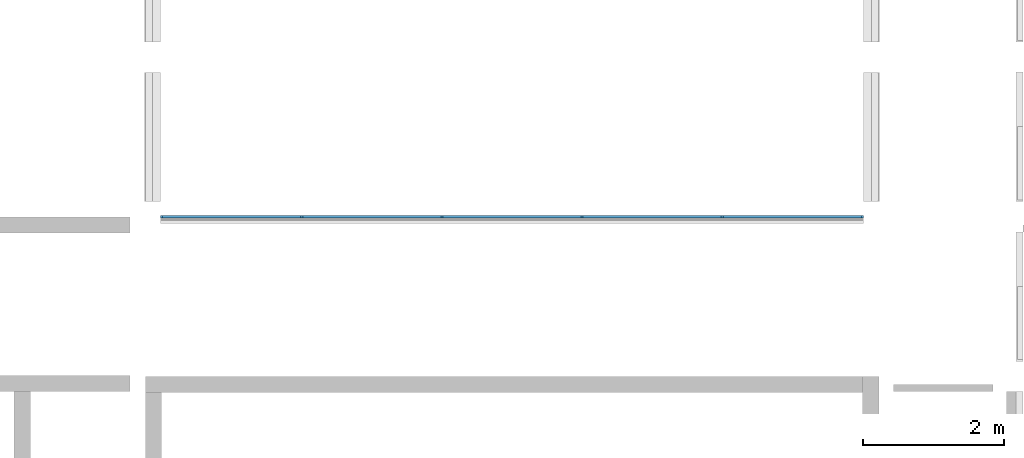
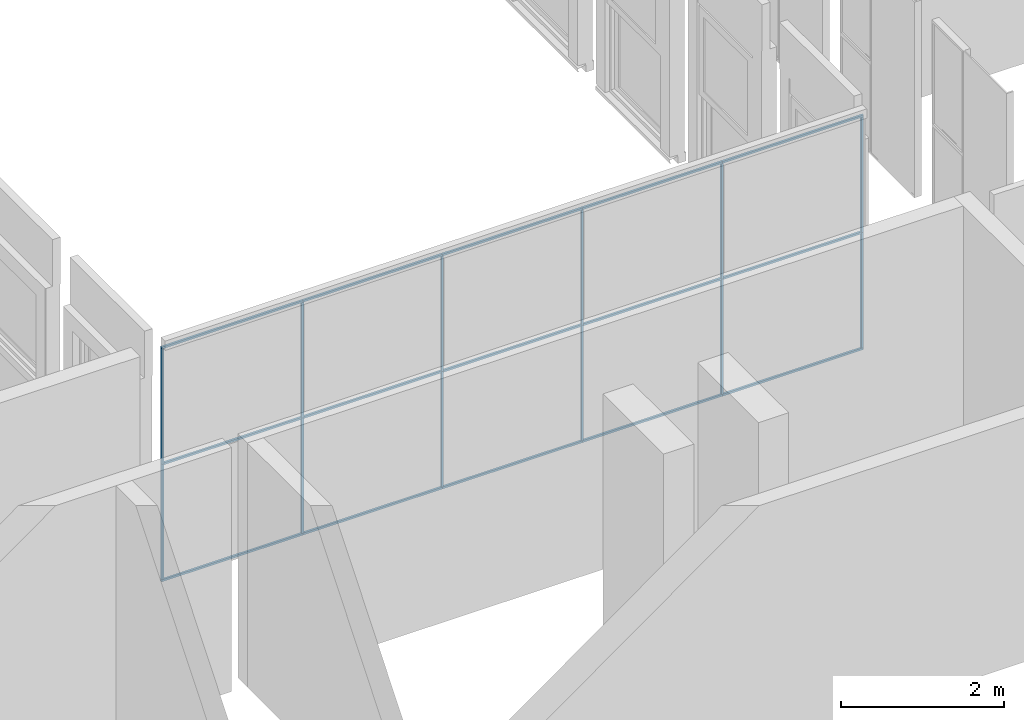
# One storey, part 4 of 16: 27 members, 1 element without a shape of its own.
"""IFC2X3 building model written with IfcOpenShell, lengths in millimetres."""

from ifc_helpers import new_model, entity, si_unit, converted_unit, derived_unit, direction, frame, origin, origin_2d_with_axis, place, context, subcontext, project, spatial, rectangle, extrude, source, transform, mapped, material, type_object, type_shapes, element, aggregate, save


model = new_model("IFC2X3")

# Units and contexts
model_context = context("Model", 3, precision=0.01, world=origin(), true_north=direction((6.12303176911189e-17, 1.0)))
body_context = subcontext(model_context, "Body", "Model", "MODEL_VIEW")
ifc_project = project(units=[si_unit("LENGTHUNIT", "METRE", prefix="MILLI"), si_unit("AREAUNIT", "SQUARE_METRE"), si_unit("VOLUMEUNIT", "CUBIC_METRE"), converted_unit("PLANEANGLEUNIT", "DEGREE", entity("IfcRatioMeasure", 0.0174532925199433), si_unit("PLANEANGLEUNIT", "RADIAN"), dimensions=[0, 0, 0, 0, 0, 0, 0]), si_unit("MASSUNIT", "GRAM", prefix="KILO"), derived_unit("MASSDENSITYUNIT", [(si_unit("MASSUNIT", "GRAM", prefix="KILO"), 1), (si_unit("LENGTHUNIT", "METRE"), -3)]), derived_unit("MOMENTOFINERTIAUNIT", [(si_unit("LENGTHUNIT", "METRE"), 4)]), si_unit("TIMEUNIT", "SECOND"), si_unit("FREQUENCYUNIT", "HERTZ"), si_unit("THERMODYNAMICTEMPERATUREUNIT", "DEGREE_CELSIUS"), derived_unit("THERMALTRANSMITTANCEUNIT", [(si_unit("MASSUNIT", "GRAM", prefix="KILO"), 1), (si_unit("THERMODYNAMICTEMPERATUREUNIT", "KELVIN"), -1), (si_unit("TIMEUNIT", "SECOND"), -3)]), derived_unit("VOLUMETRICFLOWRATEUNIT", [(si_unit("LENGTHUNIT", "METRE"), 3), (si_unit("TIMEUNIT", "SECOND"), -1)]), si_unit("ELECTRICCURRENTUNIT", "AMPERE"), si_unit("ELECTRICVOLTAGEUNIT", "VOLT"), si_unit("POWERUNIT", "WATT"), si_unit("FORCEUNIT", "NEWTON", prefix="KILO"), si_unit("ILLUMINANCEUNIT", "LUX"), si_unit("LUMINOUSFLUXUNIT", "LUMEN"), si_unit("LUMINOUSINTENSITYUNIT", "CANDELA"), derived_unit("USERDEFINED", [(si_unit("MASSUNIT", "GRAM", prefix="KILO"), -1), (si_unit("LENGTHUNIT", "METRE"), -2), (si_unit("TIMEUNIT", "SECOND"), 3), (si_unit("LUMINOUSFLUXUNIT", "LUMEN"), 1)]), derived_unit("LINEARVELOCITYUNIT", [(si_unit("LENGTHUNIT", "METRE"), 1), (si_unit("TIMEUNIT", "SECOND"), -1)]), si_unit("PRESSUREUNIT", "PASCAL"), derived_unit("USERDEFINED", [(si_unit("LENGTHUNIT", "METRE"), -2), (si_unit("MASSUNIT", "GRAM", prefix="KILO"), 1), (si_unit("TIMEUNIT", "SECOND"), -2)]), derived_unit("LINEARFORCEUNIT", [(si_unit("MASSUNIT", "GRAM", prefix="KILO"), 1), (si_unit("LENGTHUNIT", "METRE"), 1), (si_unit("TIMEUNIT", "SECOND"), -2), (si_unit("LENGTHUNIT", "METRE"), -1)]), derived_unit("PLANARFORCEUNIT", [(si_unit("MASSUNIT", "GRAM", prefix="KILO"), 1), (si_unit("LENGTHUNIT", "METRE"), 1), (si_unit("TIMEUNIT", "SECOND"), -2), (si_unit("LENGTHUNIT", "METRE"), -2)])], contexts=[model_context])

# Site, building, storey
site_placement = place(None, frame((10627.5135316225, 21939.0796949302, 0.0)))
site = spatial("IfcSite", under=ifc_project, at=site_placement, Name="Default", CompositionType="ELEMENT")
building_placement = place(site_placement, origin())
building = spatial("IfcBuilding", under=site, at=building_placement, CompositionType="ELEMENT")
storey_placement = place(building_placement, frame((0.0, 0.0, 3660.0)))
storey = spatial("IfcBuildingStorey", under=building, at=storey_placement, Name="R+1", CompositionType="ELEMENT", Elevation=3660.0)

# Curtain wall, members
curtain_wall_type = type_object("IfcCurtainWallType", Name="Curtain Wall:Curtain_Wall-Exterior_Glazing", PredefinedType="NOTDEFINED")
curtain_wall_placement = place(storey_placement, frame((0.0, 0.0, -3660.0)))
curtain_wall = element("IfcCurtainWall", 1, at=curtain_wall_placement, inside=storey, type_object=curtain_wall_type, Name="Curtain Wall:Curtain_Wall-Exterior_Glazing", ObjectType="Curtain Wall:Curtain_Wall-Exterior_Glazing")
ifc_material = material(Name="Aluminium")
member_type_1 = type_object("IfcMemberType", Name="Rectangular Mullion:30mm_Square", PredefinedType="MULLION", material=ifc_material)
shared_shape_1 = source(origin(), body_context, "Body", "SweptSolid", [
    extrude(rectangle(XDim=30.0, YDim=30.0, at=origin_2d_with_axis()), frame((-15.0, 0.0, -1999.0), z_axis=(0.0, 0.0, 1.0), x_axis=(0.0, -1.0, 0.0)), (0.0, 0.0, 1.0), 1999.00000018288),
])
type_shapes(member_type_1, [shared_shape_1])
member_1_placement = place(storey_placement, frame((51357.4864683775, -15159.0796949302, 3520.0), z_axis=(1.0, 0.0, 0.0), x_axis=(0.0, 0.0, 1.0)))
member_1 = element("IfcMember", 2, at=member_1_placement, type_object=member_type_1, material=ifc_material, Name="Rectangular Mullion:30mm_Square", ObjectType="Rectangular Mullion:30mm_Square", context=body_context, shape_type="MappedRepresentation", body=[
    mapped(shared_shape_1, transform((0.0, 0.0, 0.0), scale=1.0)),
])
member_type_2 = type_object("IfcMemberType", Name="Rectangular Mullion:30mm_Square", PredefinedType="MULLION", material=ifc_material)
shared_shape_2 = source(origin(), body_context, "Body", "SweptSolid", [
    extrude(rectangle(XDim=30.0, YDim=30.0, at=origin_2d_with_axis()), frame((-15.0, 0.0, -1999.0), z_axis=(0.0, 0.0, 1.0), x_axis=(0.0, -1.0, 0.0)), (0.0, 0.0, 1.0), 1999.00000018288),
])
type_shapes(member_type_2, [shared_shape_2])
member_2_placement = place(storey_placement, frame((43406.4864685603, -15159.0796949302, 3520.0), z_axis=(1.0, 0.0, 0.0), x_axis=(0.0, 0.0, 1.0)))
member_2 = element("IfcMember", 3, at=member_2_placement, type_object=member_type_2, material=ifc_material, Name="Rectangular Mullion:30mm_Square", ObjectType="Rectangular Mullion:30mm_Square", context=body_context, shape_type="MappedRepresentation", body=[
    mapped(shared_shape_2, transform((0.0, 0.0, 0.0), scale=1.0)),
])
member_type_3 = type_object("IfcMemberType", Name="Rectangular Mullion:30mm_Square", PredefinedType="MULLION", material=ifc_material)
shared_shape_3 = source(origin(), body_context, "Body", "SweptSolid", [
    extrude(rectangle(XDim=30.0, YDim=30.0, at=origin_2d_with_axis()), frame((-15.0, 0.0, -1984.0), z_axis=(0.0, 0.0, 1.0), x_axis=(0.0, -1.0, 0.0)), (0.0, 0.0, 1.0), 1983.99999987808),
])
type_shapes(member_type_3, [shared_shape_3])
member_3_placement = place(storey_placement, frame((45390.4864684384, -15159.0796949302, 3520.0), z_axis=(1.0, 0.0, 0.0), x_axis=(0.0, 0.0, 1.0)))
member_3 = element("IfcMember", 4, at=member_3_placement, type_object=member_type_3, material=ifc_material, Name="Rectangular Mullion:30mm_Square", ObjectType="Rectangular Mullion:30mm_Square", context=body_context, shape_type="MappedRepresentation", body=[
    mapped(shared_shape_3, transform((0.0, 0.0, 0.0), scale=1.0)),
])
member_4_placement = place(storey_placement, frame((47374.4864683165, -15159.0796949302, 3520.0), z_axis=(1.0, 0.0, 0.0), x_axis=(0.0, 0.0, 1.0)))
member_4 = element("IfcMember", 5, at=member_4_placement, type_object=member_type_3, material=ifc_material, Name="Rectangular Mullion:30mm_Square", ObjectType="Rectangular Mullion:30mm_Square", context=body_context, shape_type="MappedRepresentation", body=[
    mapped(shared_shape_3, transform((0.0, 0.0, 0.0), scale=1.0)),
])
member_5_placement = place(storey_placement, frame((49358.4864681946, -15159.0796949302, 3520.0), z_axis=(1.0, 0.0, 0.0), x_axis=(0.0, 0.0, 1.0)))
member_5 = element("IfcMember", 6, at=member_5_placement, type_object=member_type_3, material=ifc_material, Name="Rectangular Mullion:30mm_Square", ObjectType="Rectangular Mullion:30mm_Square", context=body_context, shape_type="MappedRepresentation", body=[
    mapped(shared_shape_3, transform((0.0, 0.0, 0.0), scale=1.0)),
])
member_type_4 = type_object("IfcMemberType", Name="Rectangular Mullion:30mm_Square", PredefinedType="MULLION", material=ifc_material)
shared_shape_4 = source(origin(), body_context, "Body", "SweptSolid", [
    extrude(rectangle(XDim=30.0, YDim=30.0, at=origin_2d_with_axis()), frame((-15.0, 0.0, -1999.0), z_axis=(0.0, 0.0, 1.0), x_axis=(0.0, -1.0, 0.0)), (0.0, 0.0, 1.0), 1999.00000018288),
])
type_shapes(member_type_4, [shared_shape_4])
member_6_placement = place(storey_placement, frame((41407.4864683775, -15159.0796949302, 0.0), z_axis=(-1.0, 0.0, 0.0), x_axis=(0.0, 0.0, -1.0)))
member_6 = element("IfcMember", 7, at=member_6_placement, type_object=member_type_4, material=ifc_material, Name="Rectangular Mullion:30mm_Square", ObjectType="Rectangular Mullion:30mm_Square", context=body_context, shape_type="MappedRepresentation", body=[
    mapped(shared_shape_4, transform((0.0, 0.0, 0.0), scale=1.0)),
])
member_type_5 = type_object("IfcMemberType", Name="Rectangular Mullion:30mm_Square", PredefinedType="MULLION", material=ifc_material)
shared_shape_5 = source(origin(), body_context, "Body", "SweptSolid", [
    extrude(rectangle(XDim=30.0, YDim=30.0, at=origin_2d_with_axis()), frame((-15.0, 0.0, -1984.0), z_axis=(0.0, 0.0, 1.0), x_axis=(0.0, -1.0, 0.0)), (0.0, 0.0, 1.0), 1983.99999987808),
])
type_shapes(member_type_5, [shared_shape_5])
member_7_placement = place(storey_placement, frame((43406.4864685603, -15159.0796949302, 0.0), z_axis=(-1.0, 0.0, 0.0), x_axis=(0.0, 0.0, -1.0)))
member_7 = element("IfcMember", 8, at=member_7_placement, type_object=member_type_5, material=ifc_material, Name="Rectangular Mullion:30mm_Square", ObjectType="Rectangular Mullion:30mm_Square", context=body_context, shape_type="MappedRepresentation", body=[
    mapped(shared_shape_5, transform((0.0, 0.0, 0.0), scale=1.0)),
])
member_8_placement = place(storey_placement, frame((45390.4864684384, -15159.0796949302, 0.0), z_axis=(-1.0, 0.0, 0.0), x_axis=(0.0, 0.0, -1.0)))
member_8 = element("IfcMember", 9, at=member_8_placement, type_object=member_type_5, material=ifc_material, Name="Rectangular Mullion:30mm_Square", ObjectType="Rectangular Mullion:30mm_Square", context=body_context, shape_type="MappedRepresentation", body=[
    mapped(shared_shape_5, transform((0.0, 0.0, 0.0), scale=1.0)),
])
member_9_placement = place(storey_placement, frame((47374.4864683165, -15159.0796949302, 0.0), z_axis=(-1.0, 0.0, 0.0), x_axis=(0.0, 0.0, -1.0)))
member_9 = element("IfcMember", 10, at=member_9_placement, type_object=member_type_5, material=ifc_material, Name="Rectangular Mullion:30mm_Square", ObjectType="Rectangular Mullion:30mm_Square", context=body_context, shape_type="MappedRepresentation", body=[
    mapped(shared_shape_5, transform((0.0, 0.0, 0.0), scale=1.0)),
])
member_type_6 = type_object("IfcMemberType", Name="Rectangular Mullion:30mm_Square", PredefinedType="MULLION", material=ifc_material)
shared_shape_6 = source(origin(), body_context, "Body", "SweptSolid", [
    extrude(rectangle(XDim=30.0, YDim=30.0, at=origin_2d_with_axis()), frame((-15.0, 0.0, -1999.0), z_axis=(0.0, 0.0, 1.0), x_axis=(0.0, -1.0, 0.0)), (0.0, 0.0, 1.0), 1999.00000018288),
])
type_shapes(member_type_6, [shared_shape_6])
member_10_placement = place(storey_placement, frame((49358.4864681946, -15159.0796949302, 0.0), z_axis=(-1.0, 0.0, 0.0), x_axis=(0.0, 0.0, -1.0)))
member_10 = element("IfcMember", 11, at=member_10_placement, type_object=member_type_6, material=ifc_material, Name="Rectangular Mullion:30mm_Square", ObjectType="Rectangular Mullion:30mm_Square", context=body_context, shape_type="MappedRepresentation", body=[
    mapped(shared_shape_6, transform((0.0, 0.0, 0.0), scale=1.0)),
])
member_type_7 = type_object("IfcMemberType", Name="Rectangular Mullion:30mm_Square", PredefinedType="MULLION", material=ifc_material)
shared_shape_7 = source(origin(), body_context, "Body", "SweptSolid", [
    extrude(rectangle(XDim=30.0, YDim=30.0, at=origin_2d_with_axis()), frame((0.0, 0.0, -1954.0), z_axis=(0.0, 0.0, 1.0), x_axis=(0.0, -1.0, 0.0)), (0.0, 0.0, 1.0), 1954.00000018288),
])
type_shapes(member_type_7, [shared_shape_7])
member_11_placement = place(storey_placement, frame((43391.4864685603, -15159.0796949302, 1760.0), z_axis=(1.0, 0.0, 0.0), x_axis=(0.0, 0.0, 1.0)))
member_11 = element("IfcMember", 12, at=member_11_placement, type_object=member_type_7, material=ifc_material, Name="Rectangular Mullion:30mm_Square", ObjectType="Rectangular Mullion:30mm_Square", context=body_context, shape_type="MappedRepresentation", body=[
    mapped(shared_shape_7, transform((0.0, 0.0, 0.0), scale=1.0)),
])
member_12_placement = place(storey_placement, frame((45375.4864684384, -15159.0796949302, 1760.0), z_axis=(1.0, 0.0, 0.0), x_axis=(0.0, 0.0, 1.0)))
member_12 = element("IfcMember", 13, at=member_12_placement, type_object=member_type_7, material=ifc_material, Name="Rectangular Mullion:30mm_Square", ObjectType="Rectangular Mullion:30mm_Square", context=body_context, shape_type="MappedRepresentation", body=[
    mapped(shared_shape_7, transform((0.0, 0.0, 0.0), scale=1.0)),
])
member_13_placement = place(storey_placement, frame((47359.4864683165, -15159.0796949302, 1760.0), z_axis=(1.0, 0.0, 0.0), x_axis=(0.0, 0.0, 1.0)))
member_13 = element("IfcMember", 14, at=member_13_placement, type_object=member_type_7, material=ifc_material, Name="Rectangular Mullion:30mm_Square", ObjectType="Rectangular Mullion:30mm_Square", context=body_context, shape_type="MappedRepresentation", body=[
    mapped(shared_shape_7, transform((0.0, 0.0, 0.0), scale=1.0)),
])
member_14_placement = place(storey_placement, frame((49343.4864681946, -15159.0796949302, 1760.0), z_axis=(1.0, 0.0, 0.0), x_axis=(0.0, 0.0, 1.0)))
member_14 = element("IfcMember", 15, at=member_14_placement, type_object=member_type_7, material=ifc_material, Name="Rectangular Mullion:30mm_Square", ObjectType="Rectangular Mullion:30mm_Square", context=body_context, shape_type="MappedRepresentation", body=[
    mapped(shared_shape_7, transform((0.0, 0.0, 0.0), scale=1.0)),
])
member_15_placement = place(storey_placement, frame((51327.4864683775, -15159.0796949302, 1760.0), z_axis=(1.0, 0.0, 0.0), x_axis=(0.0, 0.0, 1.0)))
member_15 = element("IfcMember", 16, at=member_15_placement, type_object=member_type_7, material=ifc_material, Name="Rectangular Mullion:30mm_Square", ObjectType="Rectangular Mullion:30mm_Square", context=body_context, shape_type="MappedRepresentation", body=[
    mapped(shared_shape_7, transform((0.0, 0.0, 0.0), scale=1.0)),
])
member_type_8 = type_object("IfcMemberType", Name="Rectangular Mullion:30mm_Square", PredefinedType="MULLION", material=ifc_material)
shared_shape_8 = source(origin(), body_context, "Body", "SweptSolid", [
    extrude(rectangle(XDim=30.0, YDim=30.0, at=origin_2d_with_axis()), frame((-15.0, 0.0, -1730.0), z_axis=(0.0, 0.0, 1.0), x_axis=(0.0, -1.0, 0.0)), (0.0, 0.0, 1.0), 1730.0),
])
type_shapes(member_type_8, [shared_shape_8])
member_16_placement = place(storey_placement, frame((51357.4864683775, -15159.0796949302, 30.0), z_axis=(0.0, 0.0, -1.0), x_axis=(1.0, 0.0, 0.0)))
member_16 = element("IfcMember", 17, at=member_16_placement, type_object=member_type_8, material=ifc_material, Name="Rectangular Mullion:30mm_Square", ObjectType="Rectangular Mullion:30mm_Square", context=body_context, shape_type="MappedRepresentation", body=[
    mapped(shared_shape_8, transform((0.0, 0.0, 0.0), scale=1.0)),
])
member_type_9 = type_object("IfcMemberType", Name="Rectangular Mullion:30mm_Square", PredefinedType="MULLION", material=ifc_material)
shared_shape_9 = source(origin(), body_context, "Body", "SweptSolid", [
    extrude(rectangle(XDim=30.0, YDim=30.0, at=origin_2d_with_axis()), frame((-15.0, 0.0, -1730.0), z_axis=(0.0, 0.0, 1.0), x_axis=(0.0, -1.0, 0.0)), (0.0, 0.0, 1.0), 1730.0),
])
type_shapes(member_type_9, [shared_shape_9])
member_17_placement = place(storey_placement, frame((51357.4864683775, -15159.0796949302, 1760.0), z_axis=(0.0, 0.0, -1.0), x_axis=(1.0, 0.0, 0.0)))
member_17 = element("IfcMember", 18, at=member_17_placement, type_object=member_type_9, material=ifc_material, Name="Rectangular Mullion:30mm_Square", ObjectType="Rectangular Mullion:30mm_Square", context=body_context, shape_type="MappedRepresentation", body=[
    mapped(shared_shape_9, transform((0.0, 0.0, 0.0), scale=1.0)),
])
member_type_10 = type_object("IfcMemberType", Name="Rectangular Mullion:30mm_Square", PredefinedType="MULLION", material=ifc_material)
shared_shape_10 = source(origin(), body_context, "Body", "SweptSolid", [
    extrude(rectangle(XDim=30.0, YDim=30.0, at=origin_2d_with_axis()), frame((-15.0, 0.0, -1730.0), z_axis=(0.0, 0.0, 1.0), x_axis=(0.0, -1.0, 0.0)), (0.0, 0.0, 1.0), 1730.0),
])
type_shapes(member_type_10, [shared_shape_10])
member_18_placement = place(storey_placement, frame((41407.4864683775, -15159.0796949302, 3490.0), z_axis=(0.0, 0.0, 1.0), x_axis=(-1.0, 0.0, 0.0)))
member_18 = element("IfcMember", 19, at=member_18_placement, type_object=member_type_10, material=ifc_material, Name="Rectangular Mullion:30mm_Square", ObjectType="Rectangular Mullion:30mm_Square", context=body_context, shape_type="MappedRepresentation", body=[
    mapped(shared_shape_10, transform((0.0, 0.0, 0.0), scale=1.0)),
])
member_type_11 = type_object("IfcMemberType", Name="Rectangular Mullion:30mm_Square", PredefinedType="MULLION", material=ifc_material)
shared_shape_11 = source(origin(), body_context, "Body", "SweptSolid", [
    extrude(rectangle(XDim=30.0, YDim=30.0, at=origin_2d_with_axis()), frame((-15.0, 0.0, -1730.0), z_axis=(0.0, 0.0, 1.0), x_axis=(0.0, -1.0, 0.0)), (0.0, 0.0, 1.0), 1730.0),
])
type_shapes(member_type_11, [shared_shape_11])
member_19_placement = place(storey_placement, frame((41407.4864683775, -15159.0796949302, 1760.0), z_axis=(0.0, 0.0, 1.0), x_axis=(-1.0, 0.0, 0.0)))
member_19 = element("IfcMember", 20, at=member_19_placement, type_object=member_type_11, material=ifc_material, Name="Rectangular Mullion:30mm_Square", ObjectType="Rectangular Mullion:30mm_Square", context=body_context, shape_type="MappedRepresentation", body=[
    mapped(shared_shape_11, transform((0.0, 0.0, 0.0), scale=1.0)),
])
member_type_12 = type_object("IfcMemberType", Name="Rectangular Mullion:30mm_Square", PredefinedType="MULLION", material=ifc_material)
shared_shape_12 = source(origin(), body_context, "Body", "SweptSolid", [
    extrude(rectangle(XDim=30.0, YDim=30.0, at=origin_2d_with_axis()), frame((0.0, 0.0, -1730.0), z_axis=(0.0, 0.0, 1.0), x_axis=(0.0, -1.0, 0.0)), (0.0, 0.0, 1.0), 1730.0),
])
type_shapes(member_type_12, [shared_shape_12])
member_20_placement = place(storey_placement, frame((43406.4864685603, -15159.0796949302, 30.0), z_axis=(0.0, 0.0, -1.0), x_axis=(1.0, 0.0, 0.0)))
member_20 = element("IfcMember", 21, at=member_20_placement, type_object=member_type_12, material=ifc_material, Name="Rectangular Mullion:30mm_Square", ObjectType="Rectangular Mullion:30mm_Square", context=body_context, shape_type="MappedRepresentation", body=[
    mapped(shared_shape_12, transform((0.0, 0.0, 0.0), scale=1.0)),
])
member_21_placement = place(storey_placement, frame((45390.4864684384, -15159.0796949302, 30.0), z_axis=(0.0, 0.0, -1.0), x_axis=(1.0, 0.0, 0.0)))
member_21 = element("IfcMember", 22, at=member_21_placement, type_object=member_type_12, material=ifc_material, Name="Rectangular Mullion:30mm_Square", ObjectType="Rectangular Mullion:30mm_Square", context=body_context, shape_type="MappedRepresentation", body=[
    mapped(shared_shape_12, transform((0.0, 0.0, 0.0), scale=1.0)),
])
member_22_placement = place(storey_placement, frame((47374.4864683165, -15159.0796949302, 30.0), z_axis=(0.0, 0.0, -1.0), x_axis=(1.0, 0.0, 0.0)))
member_22 = element("IfcMember", 23, at=member_22_placement, type_object=member_type_12, material=ifc_material, Name="Rectangular Mullion:30mm_Square", ObjectType="Rectangular Mullion:30mm_Square", context=body_context, shape_type="MappedRepresentation", body=[
    mapped(shared_shape_12, transform((0.0, 0.0, 0.0), scale=1.0)),
])
member_23_placement = place(storey_placement, frame((49358.4864681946, -15159.0796949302, 30.0), z_axis=(0.0, 0.0, -1.0), x_axis=(1.0, 0.0, 0.0)))
member_23 = element("IfcMember", 24, at=member_23_placement, type_object=member_type_12, material=ifc_material, Name="Rectangular Mullion:30mm_Square", ObjectType="Rectangular Mullion:30mm_Square", context=body_context, shape_type="MappedRepresentation", body=[
    mapped(shared_shape_12, transform((0.0, 0.0, 0.0), scale=1.0)),
])
member_type_13 = type_object("IfcMemberType", Name="Rectangular Mullion:30mm_Square", PredefinedType="MULLION", material=ifc_material)
shared_shape_13 = source(origin(), body_context, "Body", "SweptSolid", [
    extrude(rectangle(XDim=30.0, YDim=30.0, at=origin_2d_with_axis()), frame((0.0, 0.0, -1730.0), z_axis=(0.0, 0.0, 1.0), x_axis=(0.0, -1.0, 0.0)), (0.0, 0.0, 1.0), 1730.0),
])
type_shapes(member_type_13, [shared_shape_13])
member_24_placement = place(storey_placement, frame((43406.4864685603, -15159.0796949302, 1760.0), z_axis=(0.0, 0.0, -1.0), x_axis=(1.0, 0.0, 0.0)))
member_24 = element("IfcMember", 25, at=member_24_placement, type_object=member_type_13, material=ifc_material, Name="Rectangular Mullion:30mm_Square", ObjectType="Rectangular Mullion:30mm_Square", context=body_context, shape_type="MappedRepresentation", body=[
    mapped(shared_shape_13, transform((0.0, 0.0, 0.0), scale=1.0)),
])
member_25_placement = place(storey_placement, frame((45390.4864684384, -15159.0796949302, 1760.0), z_axis=(0.0, 0.0, -1.0), x_axis=(1.0, 0.0, 0.0)))
member_25 = element("IfcMember", 26, at=member_25_placement, type_object=member_type_13, material=ifc_material, Name="Rectangular Mullion:30mm_Square", ObjectType="Rectangular Mullion:30mm_Square", context=body_context, shape_type="MappedRepresentation", body=[
    mapped(shared_shape_13, transform((0.0, 0.0, 0.0), scale=1.0)),
])
member_26_placement = place(storey_placement, frame((47374.4864683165, -15159.0796949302, 1760.0), z_axis=(0.0, 0.0, -1.0), x_axis=(1.0, 0.0, 0.0)))
member_26 = element("IfcMember", 27, at=member_26_placement, type_object=member_type_13, material=ifc_material, Name="Rectangular Mullion:30mm_Square", ObjectType="Rectangular Mullion:30mm_Square", context=body_context, shape_type="MappedRepresentation", body=[
    mapped(shared_shape_13, transform((0.0, 0.0, 0.0), scale=1.0)),
])
member_27_placement = place(storey_placement, frame((49358.4864681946, -15159.0796949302, 1760.0), z_axis=(0.0, 0.0, -1.0), x_axis=(1.0, 0.0, 0.0)))
member_27 = element("IfcMember", 28, at=member_27_placement, type_object=member_type_13, material=ifc_material, Name="Rectangular Mullion:30mm_Square", ObjectType="Rectangular Mullion:30mm_Square", context=body_context, shape_type="MappedRepresentation", body=[
    mapped(shared_shape_13, transform((0.0, 0.0, 0.0), scale=1.0)),
])
aggregate(curtain_wall, [member_1, member_2, member_3, member_4, member_5, member_6, member_7, member_8, member_9, member_10, member_11, member_12, member_13, member_14, member_15, member_16, member_17, member_18, member_19, member_20, member_24, member_21, member_22, member_23, member_25, member_26, member_27])

save(model, "model.ifc")
